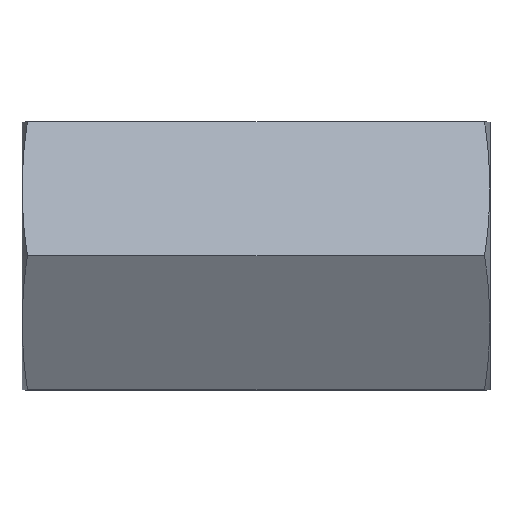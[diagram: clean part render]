
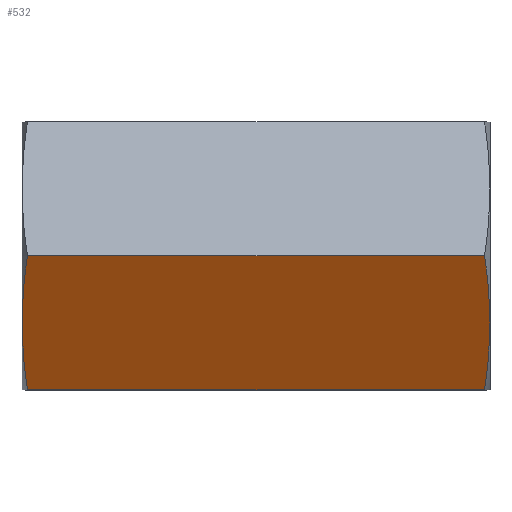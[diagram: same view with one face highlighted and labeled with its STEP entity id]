
A CAD part, top view. The second image highlights one B-rep face of the part: STEP entity #532.
In plain terms, the highlighted planar face has unit normal (0, -0.5, 0.866).
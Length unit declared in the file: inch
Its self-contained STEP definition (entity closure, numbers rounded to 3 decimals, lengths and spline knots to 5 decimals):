
#532 = ADVANCED_FACE( '', ( #1132 ), #1133, .F. );
#1132 = FACE_OUTER_BOUND( '', #5053, .T. );
#1133 = PLANE( '', #5054 );
#5053 = EDGE_LOOP( '', ( #9457, #9458, #9459, #9460, #9461, #9462 ) );
#5054 = AXIS2_PLACEMENT_3D( '', #9463, #9464, #9465 );
#9457 = ORIENTED_EDGE( '', *, *, #10658, .F. );
#9458 = ORIENTED_EDGE( '', *, *, #10831, .T. );
#9459 = ORIENTED_EDGE( '', *, *, #10542, .F. );
#9460 = ORIENTED_EDGE( '', *, *, #10263, .F. );
#9461 = ORIENTED_EDGE( '', *, *, #10875, .F. );
#9462 = ORIENTED_EDGE( '', *, *, #10532, .F. );
#9463 = CARTESIAN_POINT( '', ( 4.368, 0., 1.44338 ) );
#9464 = DIRECTION( '', ( 0., 0.5, -0.866 ) );
#9465 = DIRECTION( '', ( 0., 0.866, 0.5 ) );
#10263 = EDGE_CURVE( '', #11034, #11036, #11037, .T. );
#10532 = EDGE_CURVE( '', #11494, #11495, #11496, .T. );
#10542 = EDGE_CURVE( '', #11036, #11509, #11510, .T. );
#10658 = EDGE_CURVE( '', #11684, #11494, #11686, .T. );
#10831 = EDGE_CURVE( '', #11684, #11509, #11928, .T. );
#10875 = EDGE_CURVE( '', #11495, #11034, #11990, .T. );
#11034 = VERTEX_POINT( '', #12171 );
#11036 = VERTEX_POINT( '', #12178 );
#11037 = B_SPLINE_CURVE_WITH_KNOTS( '', 3, ( #12179, #12180, #12181, #12182, #12183, #12184 ), .UNSPECIFIED., .F., .F., ( 4, 2, 4 ), ( 0., 0.00917, 0.01833 ), .UNSPECIFIED. );
#11494 = VERTEX_POINT( '', #14582 );
#11495 = VERTEX_POINT( '', #14583 );
#11496 = B_SPLINE_CURVE_WITH_KNOTS( '', 3, ( #14584, #14585, #14586, #14587, #14588, #14589 ), .UNSPECIFIED., .F., .F., ( 4, 2, 4 ), ( 0.01833, 0.0275, 0.03666 ), .UNSPECIFIED. );
#11509 = VERTEX_POINT( '', #14947 );
#11510 = B_SPLINE_CURVE_WITH_KNOTS( '', 3, ( #14948, #14949, #14950, #14951, #14952, #14953 ), .UNSPECIFIED., .F., .F., ( 4, 2, 4 ), ( 0.01833, 0.0275, 0.03666 ), .UNSPECIFIED. );
#11684 = VERTEX_POINT( '', #15740 );
#11686 = B_SPLINE_CURVE_WITH_KNOTS( '', 3, ( #15747, #15748, #15749, #15750, #15751, #15752 ), .UNSPECIFIED., .F., .F., ( 4, 2, 4 ), ( 0., 0.00917, 0.01833 ), .UNSPECIFIED. );
#11928 = LINE( '', #16492, #16493 );
#11990 = LINE( '', #16593, #16594 );
#12171 = CARTESIAN_POINT( '', ( 0.05181, -1.25, 0.72169 ) );
#12178 = CARTESIAN_POINT( '', ( 0., -0.625, 1.08253 ) );
#12179 = CARTESIAN_POINT( '', ( 0.05181, -1.25, 0.72169 ) );
#12180 = CARTESIAN_POINT( '', ( 0.0357, -1.14583, 0.78183 ) );
#12181 = CARTESIAN_POINT( '', ( 0.02262, -1.04167, 0.84197 ) );
#12182 = CARTESIAN_POINT( '', ( 0.00474, -0.83333, 0.96225 ) );
#12183 = CARTESIAN_POINT( '', ( 0., -0.72917, 1.02239 ) );
#12184 = CARTESIAN_POINT( '', ( 0., -0.625, 1.08253 ) );
#14582 = CARTESIAN_POINT( '', ( 4.368, -0.625, 1.08253 ) );
#14583 = CARTESIAN_POINT( '', ( 4.31619, -1.25, 0.72169 ) );
#14584 = CARTESIAN_POINT( '', ( 4.368, -0.625, 1.08253 ) );
#14585 = CARTESIAN_POINT( '', ( 4.368, -0.72917, 1.02239 ) );
#14586 = CARTESIAN_POINT( '', ( 4.36326, -0.83333, 0.96225 ) );
#14587 = CARTESIAN_POINT( '', ( 4.34538, -1.04167, 0.84197 ) );
#14588 = CARTESIAN_POINT( '', ( 4.3323, -1.14583, 0.78183 ) );
#14589 = CARTESIAN_POINT( '', ( 4.31619, -1.25, 0.72169 ) );
#14947 = CARTESIAN_POINT( '', ( 0.05181, 0., 1.44338 ) );
#14948 = CARTESIAN_POINT( '', ( 0., -0.625, 1.08253 ) );
#14949 = CARTESIAN_POINT( '', ( 0., -0.52083, 1.14267 ) );
#14950 = CARTESIAN_POINT( '', ( 0.00474, -0.41667, 1.20281 ) );
#14951 = CARTESIAN_POINT( '', ( 0.02262, -0.20833, 1.32309 ) );
#14952 = CARTESIAN_POINT( '', ( 0.0357, -0.10417, 1.38324 ) );
#14953 = CARTESIAN_POINT( '', ( 0.05181, 0., 1.44338 ) );
#15740 = CARTESIAN_POINT( '', ( 4.31619, 0., 1.44338 ) );
#15747 = CARTESIAN_POINT( '', ( 4.31619, 0., 1.44338 ) );
#15748 = CARTESIAN_POINT( '', ( 4.3323, -0.10417, 1.38324 ) );
#15749 = CARTESIAN_POINT( '', ( 4.34538, -0.20833, 1.32309 ) );
#15750 = CARTESIAN_POINT( '', ( 4.36326, -0.41667, 1.20281 ) );
#15751 = CARTESIAN_POINT( '', ( 4.368, -0.52083, 1.14267 ) );
#15752 = CARTESIAN_POINT( '', ( 4.368, -0.625, 1.08253 ) );
#16492 = CARTESIAN_POINT( '', ( 4.368, 0., 1.44338 ) );
#16493 = VECTOR( '', #17603, 39.37008 );
#16593 = CARTESIAN_POINT( '', ( 4.368, -1.25, 0.72169 ) );
#16594 = VECTOR( '', #17622, 39.37008 );
#17603 = DIRECTION( '', ( -1., 0., 0. ) );
#17622 = DIRECTION( '', ( -1., 0., 0. ) );
